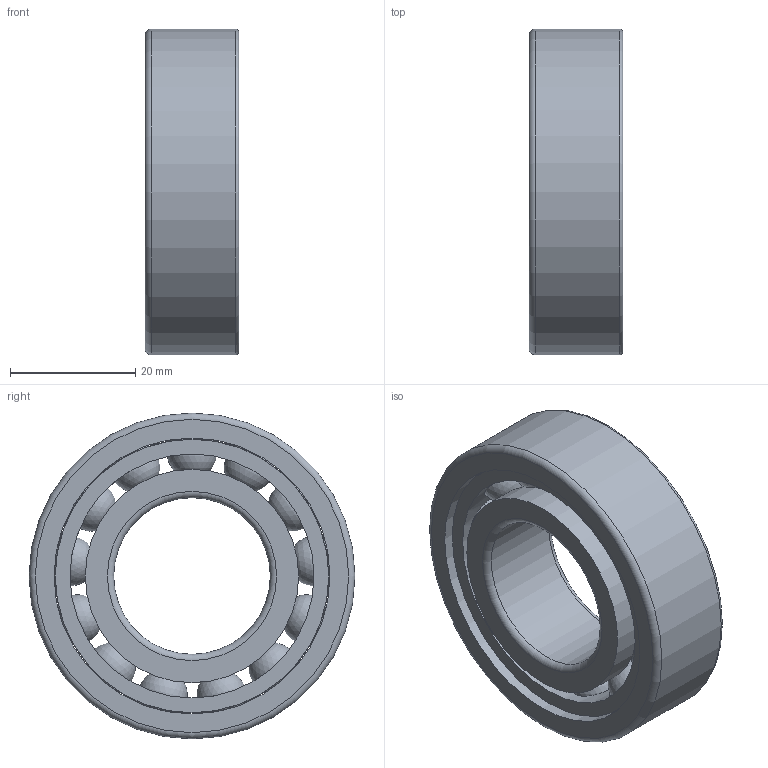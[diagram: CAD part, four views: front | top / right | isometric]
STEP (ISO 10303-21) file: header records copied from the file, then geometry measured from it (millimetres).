
FILE_DESCRIPTION(/* description */ (''),/* implementation_level */ '2;1');
FILE_NAME(/* name */ 'S_6205_TA.step',/* time_stamp */ '2013-03-06T14:49:22+01:00',/* author */ ('Marian'),/* organization */ ('GMN'),/* preprocessor_version */ 'ST-DEVELOPER v11',/* originating_system */ 'SIEMENS UGS NX 6.0',/* authorisation */ '');
FILE_SCHEMA (('CONFIG_CONTROL_DESIGN'));
Length unit declared in the file: millimetre
Products named in the file (1): S_6205_TA
Bounding box: 15 x 52 x 52 mm (x, y, z)
Volume: 18029.7 mm3; surface area: 14897.6 mm2
Topology: 16 solids, 16 shells, 46 faces, 112 edges, 72 vertices
Faces by surface type: cylinder 20, sphere 13, torus 6, plane 6, cone 1
Full cylindrical faces by diameter (mm): 8.138 x13, 25 x1, 34.04 x2, 38.938 x1, 43.65 x1, 44.05 x1, 52 x1
Entity records: 2500 total; most frequent: CARTESIAN_POINT 1634, DIRECTION 134, FACE_BOUND 105, EDGE_LOOP 92, ORIENTED_EDGE 92, AXIS2_PLACEMENT_3D 67, VERTEX_POINT 59, EDGE_CURVE 46
